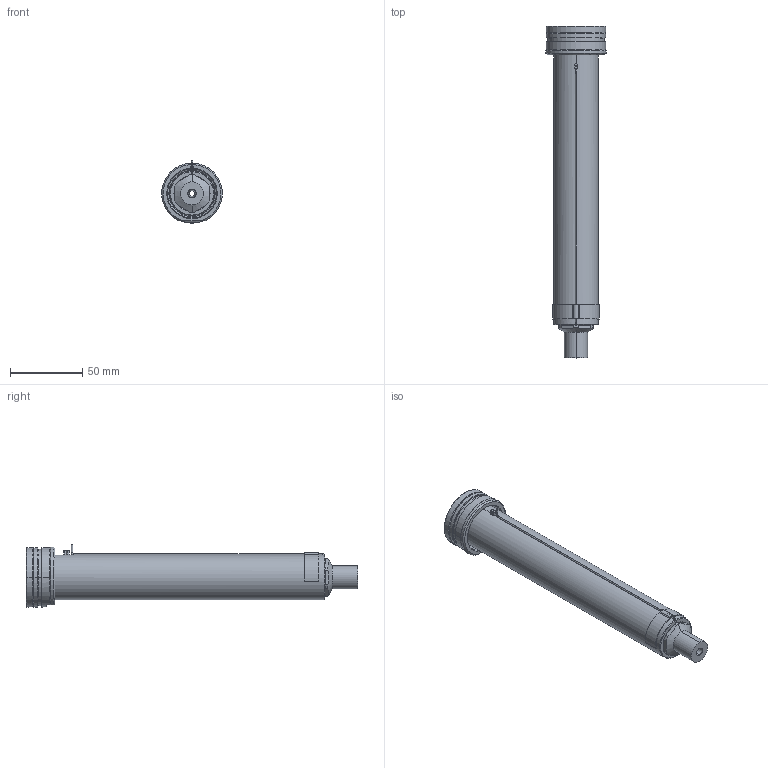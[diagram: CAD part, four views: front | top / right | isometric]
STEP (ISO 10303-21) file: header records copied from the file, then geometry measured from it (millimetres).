
FILE_DESCRIPTION((''),'2;1');
FILE_NAME('EO12_VG-FBE_WR_200_SW','2024-02-19T14:08:41',('sundharh'),(''),'CREO PARAMETRIC BY PTC INC, 2023154','CREO PARAMETRIC BY PTC INC, 2023154','');
FILE_SCHEMA(('CONFIG_CONTROL_DESIGN'));
Length unit declared in the file: millimetre
Products named in the file (1): EO12_VG-FBE_WR_200_SW
Bounding box: 41.85 x 230 x 43 mm (x, y, z)
Volume: 146642 mm3; surface area: 38430.5 mm2
Topology: 2 solids, 3 shells, 211 faces, 513 edges, 309 vertices
Faces by surface type: cylinder 73, plane 47, cone 43, torus 37, bspline 9, sphere 2
Entity records: 7070 total; most frequent: CARTESIAN_POINT 1999, DIRECTION 1144, ORIENTED_EDGE 1018, EDGE_CURVE 509, AXIS2_PLACEMENT_3D 484, VERTEX_POINT 309, CIRCLE 282, EDGE_LOOP 228
